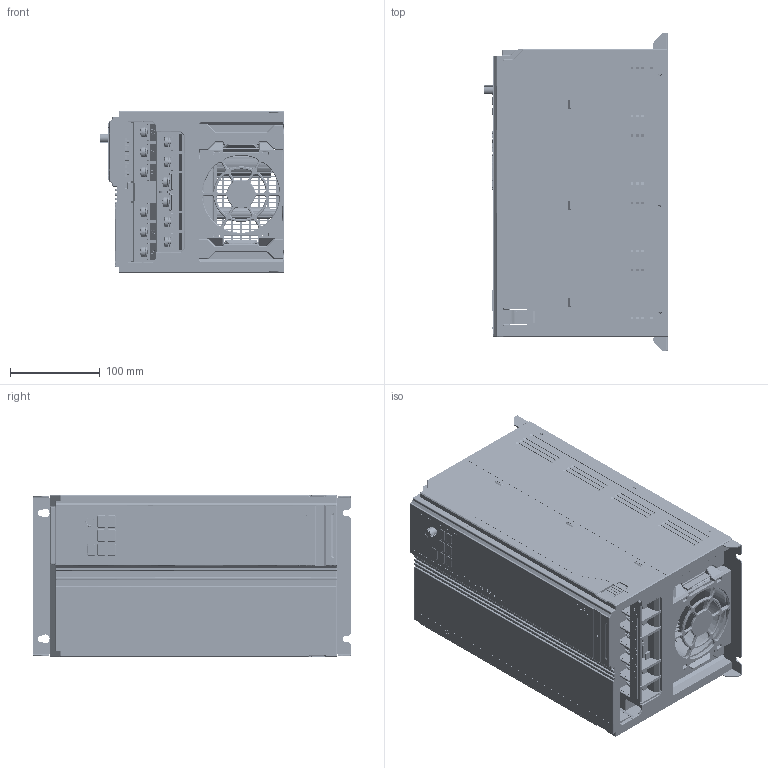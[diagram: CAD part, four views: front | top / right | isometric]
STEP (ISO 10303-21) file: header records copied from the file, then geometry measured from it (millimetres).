
FILE_DESCRIPTION(/* description */ (''),/* implementation_level */ '2;1');
FILE_NAME(/* name */ 'VH1-S5~2',/* time_stamp */ '2024-12-03T19:15:26+08:00',/* author */ (''),/* organization */ (''),/* preprocessor_version */ 'ST-DEVELOPER v16.5',/* originating_system */ '',/* authorisation */ '');
FILE_SCHEMA (('AUTOMOTIVE_DESIGN'));
Products named in the file (15): Document; VH1-4022-B-丝印; 图块 13; 图块 12; 图块 11; 图块 10; 图块 09; 图块 08; 图块 07; 图块 06; 图块 05; 图块 04; 图块 03; 图块 02; 图块 01
Assembly tree (14 placements, depth 2):
  Document
    VH1-4022-B-丝印
    图块 13
    图块 12
    图块 11
    图块 10
    图块 09
    图块 08
    图块 07
    图块 06
    图块 05
    图块 04
    图块 03
    图块 02
    图块 01
Bounding box: 204.41 x 353 x 180.1 mm (x, y, z)
Volume: 2449539.8 mm3; surface area: 2117176.6 mm2
Topology: 417 solids, 450 shells, 15760 faces, 42759 edges, 28014 vertices
Faces by surface type: plane 11258, bspline 4502
Entity records: 558747 total; most frequent: CARTESIAN_POINT 279808, ORIENTED_EDGE 85139, EDGE_CURVE 42625, B_SPLINE_CURVE_WITH_KNOTS 34759, VERTEX_POINT 28014, EDGE_LOOP 16677, ADVANCED_FACE 15759, FACE_OUTER_BOUND 15759
